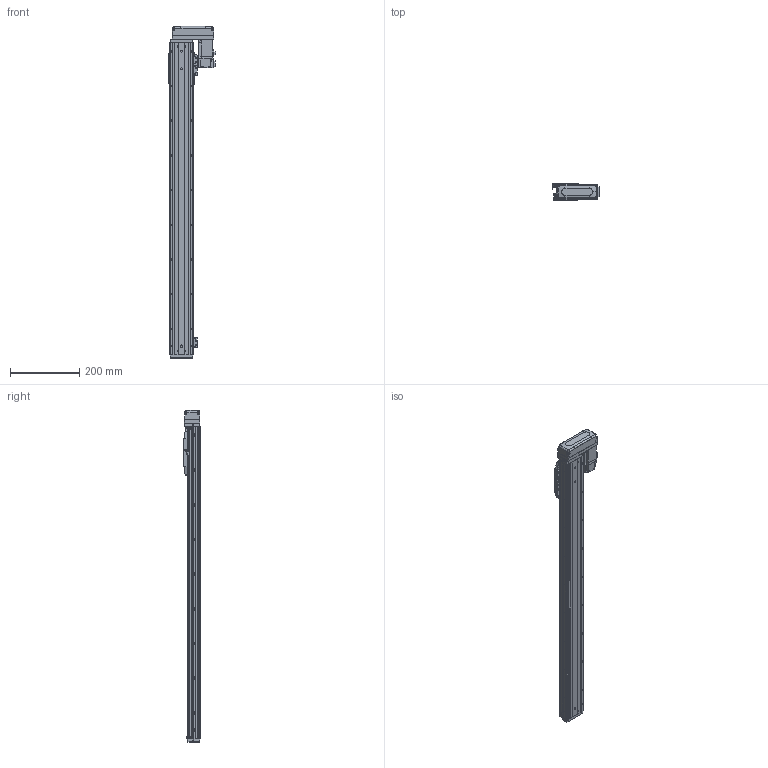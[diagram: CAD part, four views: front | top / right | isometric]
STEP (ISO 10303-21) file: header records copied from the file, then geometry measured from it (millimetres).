
FILE_DESCRIPTION (( 'STEP AP203' ), '1' );
FILE_NAME ('CTHA60-750-BL-M10-C4L.step', '2022-03-19T06:15:19', ( '微软用户' ), ( '微软中国' ), 'SwSTEP 2.0', 'SolidWorks 2020', '' );
FILE_SCHEMA (( 'CONFIG_CONTROL_DESIGN' ));
Length unit declared in the file: millimetre
Products named in the file (18): GBT77-2000 M3×3; CTHA60-006-1; CTHA60-005; GBT 70.1-M3℅6; CTHA60-033; GB¨uT 70.2-M3¡Á6_M3¡Á6; GBT 70.3-M3℅6; CTHA60-750-BL-M10-C4L; EE_SX911P_R; CTHA60-016; CTHA60-017; HG-KR13（三菱）; CTHA60-021; CTHA60-002; CTHA60-001_900; GBT 70.1-M4×16; CTHA60-031; CTHA60-004
Assembly tree (54 placements, depth 2):
  CTHA60-750-BL-M10-C4L
    CTHA60-001_900
    CTHA60-004
    CTHA60-005
    GB¨uT 70.2-M3¡Á6_M3¡Á6  x10
    EE_SX911P_R  x3
    CTHA60-017  x3
    CTHA60-021  x2
    GBT 70.1-M4×16  x10
    GBT77-2000 M3×3  x6
    GBT 70.1-M3℅6  x6
    GBT 70.3-M3℅6  x4
    CTHA60-016  x2
    HG-KR13（三菱）
    CTHA60-002
    CTHA60-031
    CTHA60-006-1
    CTHA60-033
Bounding box: 137.1 x 48 x 957 mm (x, y, z)
Volume: 1612007.5 mm3; surface area: 477656 mm2
Topology: 56 solids, 56 shells, 2574 faces, 6205 edges, 3829 vertices
Faces by surface type: plane 1485, cylinder 595, cone 346, torus 92, bspline 32, sphere 24
Entity records: 46949 total; most frequent: CARTESIAN_POINT 9034, DIRECTION 7276, ORIENTED_EDGE 7218, EDGE_CURVE 3609, VECTOR 2568, LINE 2568, AXIS2_PLACEMENT_3D 2354, VERTEX_POINT 2288
